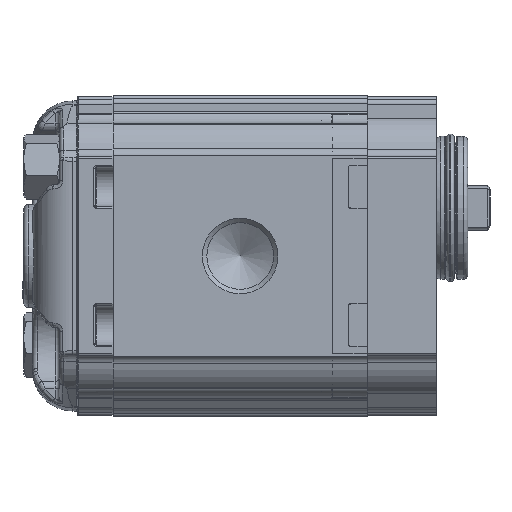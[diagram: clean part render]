
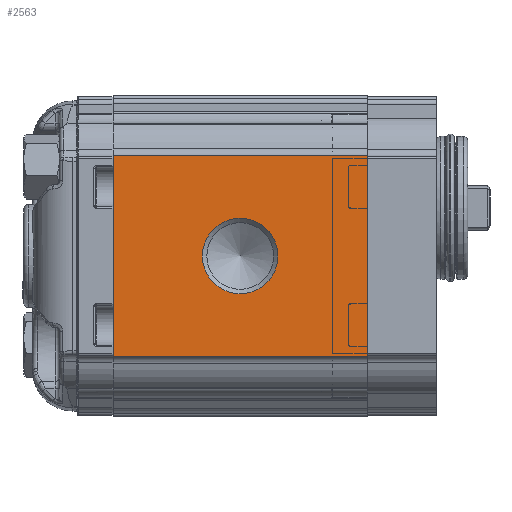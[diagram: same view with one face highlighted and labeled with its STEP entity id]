
A CAD part, left-side view. The second image highlights one B-rep face of the part: STEP entity #2563.
In plain terms, the highlighted planar face has unit normal (-1, 0, 0).
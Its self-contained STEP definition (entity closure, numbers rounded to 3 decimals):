
#2563 = ADVANCED_FACE( '', ( #6621, #6622 ), #6623, .T. );
#6621 = FACE_BOUND( '', #13076, .T. );
#6622 = FACE_OUTER_BOUND( '', #13077, .T. );
#6623 = PLANE( '', #13078 );
#13076 = EDGE_LOOP( '', ( #23833 ) );
#13077 = EDGE_LOOP( '', ( #23834, #23835, #23836, #23837 ) );
#13078 = AXIS2_PLACEMENT_3D( '', #23838, #23839, #23840 );
#23833 = ORIENTED_EDGE( '', *, *, #38907, .F. );
#23834 = ORIENTED_EDGE( '', *, *, #38908, .T. );
#23835 = ORIENTED_EDGE( '', *, *, #38909, .T. );
#23836 = ORIENTED_EDGE( '', *, *, #38910, .T. );
#23837 = ORIENTED_EDGE( '', *, *, #37472, .F. );
#23838 = CARTESIAN_POINT( '', ( -33., 130.814, 48.138 ) );
#23839 = DIRECTION( '', ( -1., 0., 0. ) );
#23840 = DIRECTION( '', ( 0., 0., 1. ) );
#37472 = EDGE_CURVE( '', #44199, #44201, #44202, .T. );
#38907 = EDGE_CURVE( '', #46639, #46639, #46640, .F. );
#38908 = EDGE_CURVE( '', #44199, #46641, #46642, .T. );
#38909 = EDGE_CURVE( '', #46641, #46643, #46644, .T. );
#38910 = EDGE_CURVE( '', #46643, #44201, #46645, .F. );
#44199 = VERTEX_POINT( '', #54143 );
#44201 = VERTEX_POINT( '', #54145 );
#44202 = LINE( '', #54146, #54147 );
#46639 = VERTEX_POINT( '', #59218 );
#46640 = CIRCLE( '', #59219, 8.475 );
#46641 = VERTEX_POINT( '', #59220 );
#46642 = LINE( '', #59221, #59222 );
#46643 = VERTEX_POINT( '', #59223 );
#46644 = LINE( '', #59224, #59225 );
#46645 = LINE( '', #59226, #59227 );
#54143 = CARTESIAN_POINT( '', ( -33., 57., -22.5 ) );
#54145 = CARTESIAN_POINT( '', ( -33., 57., 22.5 ) );
#54146 = CARTESIAN_POINT( '', ( -33., 57., -21.711 ) );
#54147 = VECTOR( '', #71753, 1000. );
#59218 = CARTESIAN_POINT( '', ( -33., 28.5, -8.475 ) );
#59219 = AXIS2_PLACEMENT_3D( '', #73444, #73445, #73446 );
#59220 = CARTESIAN_POINT( '', ( -33., 0., -22.5 ) );
#59221 = CARTESIAN_POINT( '', ( -33., 57., -22.5 ) );
#59222 = VECTOR( '', #73447, 1000. );
#59223 = CARTESIAN_POINT( '', ( -33., 0., 22.5 ) );
#59224 = CARTESIAN_POINT( '', ( -33., 0., -21.711 ) );
#59225 = VECTOR( '', #73448, 1000. );
#59226 = CARTESIAN_POINT( '', ( -33., 57., 22.5 ) );
#59227 = VECTOR( '', #73449, 1000. );
#71753 = DIRECTION( '', ( 0., 0., 1. ) );
#73444 = CARTESIAN_POINT( '', ( -33., 28.5, 0. ) );
#73445 = DIRECTION( '', ( 1., 0., 0. ) );
#73446 = DIRECTION( '', ( 0., 0., -1. ) );
#73447 = DIRECTION( '', ( 0., -1., 0. ) );
#73448 = DIRECTION( '', ( 0., 0., 1. ) );
#73449 = DIRECTION( '', ( 0., -1., 0. ) );
